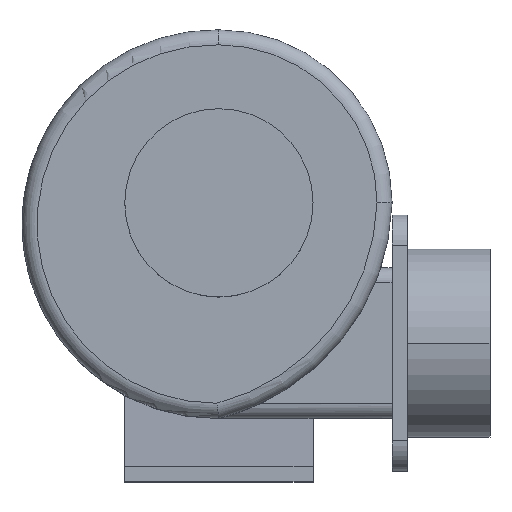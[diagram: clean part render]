
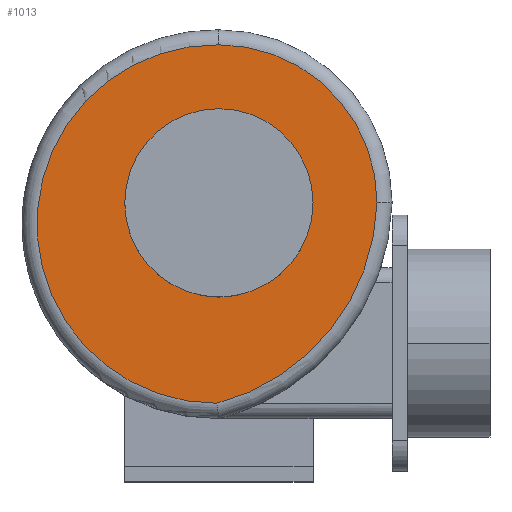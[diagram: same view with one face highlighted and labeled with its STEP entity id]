
A CAD part, top view. The second image highlights one B-rep face of the part: STEP entity #1013.
In plain terms, the highlighted planar face has unit normal (0, 0, 1).
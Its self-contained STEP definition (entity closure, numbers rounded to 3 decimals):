
#5 = EDGE_CURVE ( 'NONE', #1415, #2175, #2828, .T. ) ;
#57 = CARTESIAN_POINT ( 'NONE',  ( 0., 0., 62.5 ) ) ;
#107 = FACE_OUTER_BOUND ( 'NONE', #2241, .T. ) ;
#288 = DIRECTION ( 'NONE',  ( 0., 0., 1. ) ) ;
#339 = DIRECTION ( 'NONE',  ( 1., 0., 0. ) ) ;
#387 = CARTESIAN_POINT ( 'NONE',  ( 62.5, 0., 62.5 ) ) ;
#467 = EDGE_CURVE ( 'NONE', #2089, #2428, #2188, .T. ) ;
#568 = DIRECTION ( 'NONE',  ( 1., 0., 0. ) ) ;
#640 = CARTESIAN_POINT ( 'NONE',  ( -1.296, -133.011, 62.5 ) ) ;
#686 = DIRECTION ( 'NONE',  ( 0., 0., 1. ) ) ;
#814 = AXIS2_PLACEMENT_3D ( 'NONE', #57, #2140, #568 ) ;
#823 = DIRECTION ( 'NONE',  ( 0., 0., 1. ) ) ;
#850 = EDGE_CURVE ( 'NONE', #2175, #1415, #1288, .T. ) ;
#913 = CARTESIAN_POINT ( 'NONE',  ( -0.066, 105., 62.5 ) ) ;
#1013 = ADVANCED_FACE ( 'NONE', ( #107, #2909 ), #3185, .T. ) ;
#1050 = CARTESIAN_POINT ( 'NONE',  ( -62.5, 0., 62.5 ) ) ;
#1186 = DIRECTION ( 'NONE',  ( 0., 0., 1. ) ) ;
#1288 = CIRCLE ( 'NONE', #1934, 62.5 ) ;
#1292 = AXIS2_PLACEMENT_3D ( 'NONE', #2427, #823, #2684 ) ;
#1415 = VERTEX_POINT ( 'NONE', #1050 ) ;
#1445 = EDGE_CURVE ( 'NONE', #2146, #2089, #2533, .T. ) ;
#1593 = ORIENTED_EDGE ( 'NONE', *, *, #1445, .T. ) ;
#1633 = AXIS2_PLACEMENT_3D ( 'NONE', #1850, #288, #2116 ) ;
#1672 = CARTESIAN_POINT ( 'NONE',  ( 105., 0.146, 62.5 ) ) ;
#1850 = CARTESIAN_POINT ( 'NONE',  ( -36.951, 4.457, 62.5 ) ) ;
#1873 = ORIENTED_EDGE ( 'NONE', *, *, #850, .F. ) ;
#1885 = DIRECTION ( 'NONE',  ( 0., 0., 1. ) ) ;
#1929 = CIRCLE ( 'NONE', #1292, 119.011 ) ;
#1934 = AXIS2_PLACEMENT_3D ( 'NONE', #2267, #686, #2547 ) ;
#1944 = AXIS2_PLACEMENT_3D ( 'NONE', #2778, #1186, #3041 ) ;
#2040 = EDGE_LOOP ( 'NONE', ( #2235, #1873 ) ) ;
#2089 = VERTEX_POINT ( 'NONE', #1672 ) ;
#2116 = DIRECTION ( 'NONE',  ( 1., 0., 0. ) ) ;
#2140 = DIRECTION ( 'NONE',  ( 0., 0., 1. ) ) ;
#2146 = VERTEX_POINT ( 'NONE', #640 ) ;
#2175 = VERTEX_POINT ( 'NONE', #387 ) ;
#2188 = CIRCLE ( 'NONE', #1944, 105. ) ;
#2235 = ORIENTED_EDGE ( 'NONE', *, *, #5, .F. ) ;
#2241 = EDGE_LOOP ( 'NONE', ( #3254, #3243, #1593 ) ) ;
#2267 = CARTESIAN_POINT ( 'NONE',  ( 0., 0., 62.5 ) ) ;
#2427 = CARTESIAN_POINT ( 'NONE',  ( -1.715, -14., 62.5 ) ) ;
#2428 = VERTEX_POINT ( 'NONE', #913 ) ;
#2439 = AXIS2_PLACEMENT_3D ( 'NONE', #2683, #1885, #339 ) ;
#2533 = CIRCLE ( 'NONE', #1633, 142.017 ) ;
#2547 = DIRECTION ( 'NONE',  ( 1., 0., 0. ) ) ;
#2683 = CARTESIAN_POINT ( 'NONE',  ( 0., 0., 62.5 ) ) ;
#2684 = DIRECTION ( 'NONE',  ( 1., 0., 0. ) ) ;
#2760 = EDGE_CURVE ( 'NONE', #2428, #2146, #1929, .T. ) ;
#2778 = CARTESIAN_POINT ( 'NONE',  ( 0., 0., 62.5 ) ) ;
#2828 = CIRCLE ( 'NONE', #2439, 62.5 ) ;
#2909 = FACE_BOUND ( 'NONE', #2040, .T. ) ;
#3041 = DIRECTION ( 'NONE',  ( 1., 0., 0. ) ) ;
#3185 = PLANE ( 'NONE',  #814 ) ;
#3243 = ORIENTED_EDGE ( 'NONE', *, *, #2760, .T. ) ;
#3254 = ORIENTED_EDGE ( 'NONE', *, *, #467, .T. ) ;
